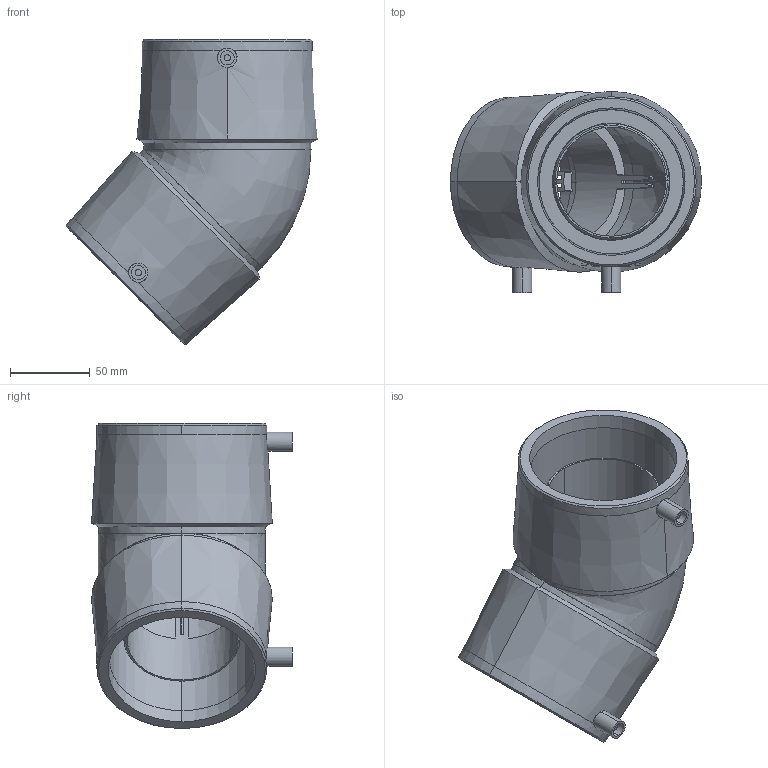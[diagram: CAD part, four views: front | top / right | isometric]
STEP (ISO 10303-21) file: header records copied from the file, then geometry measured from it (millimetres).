
FILE_DESCRIPTION (( 'STEP AP203' ), '1' );
FILE_NAME ('KP_24-90C.step', '2011-08-08T11:37:24', ( '' ), ( '' ), 'SwSTEP 2.0', 'SolidWorks 2011', '' );
FILE_SCHEMA (( 'CONFIG_CONTROL_DESIGN' ));
Length unit declared in the file: millimetre
Products named in the file (1): KP_24-90C
Bounding box: 157.75 x 126.14 x 191.51 mm (x, y, z)
Volume: 599930.5 mm3; surface area: 164135.8 mm2
Topology: 1 solids, 1 shells, 283 faces, 821 edges, 524 vertices
Faces by surface type: plane 118, cylinder 108, cone 31, bspline 14, torus 12
Entity records: 10390 total; most frequent: CARTESIAN_POINT 3022, ORIENTED_EDGE 1634, DIRECTION 1484, EDGE_CURVE 817, AXIS2_PLACEMENT_3D 603, VERTEX_POINT 524, CIRCLE 333, EDGE_LOOP 309
